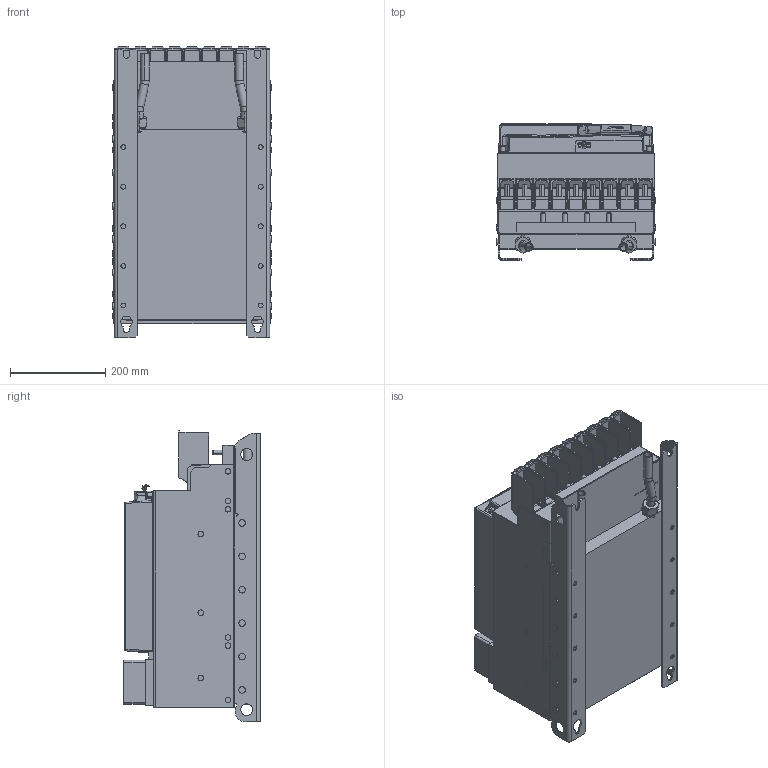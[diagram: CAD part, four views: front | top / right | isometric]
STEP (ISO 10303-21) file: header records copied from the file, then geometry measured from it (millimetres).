
FILE_DESCRIPTION (( 'STEP AP214' ), '1' );
FILE_NAME ('TW0 A1.STEP', '2023-11-20T07:51:45', ( '' ), ( '' ), 'SwSTEP 2.0', 'SolidWorks 2022', '' );
FILE_SCHEMA (( 'AUTOMOTIVE_DESIGN' ));
Length unit declared in the file: millimetre
Products named in the file (13): Kundenmodell ohne Zubehör^10077759_000; 10077759_000_ Leistungsteil F6-7 TW0 (Kundenmodell); 10061502_000_Deckel (Kundenmodell); 10044643_000_Kundenmodell; TW0 A1; 10045475_000_Gehäusebaugruppe F6-7 (Kundenmodell); 10059764_000_Blindabdeckung (Kundenmodell); Kundenmodell^10059764_000; Kundenmodell^10045475_000_Gehäusebaugruppe ohne Lüfterkarte; 10043622_000_70F6 Klemme (Kundenmodell); Kundenmodell^10061502_000; Kundenmodell^10044643_000; Kundenmodell^10043622_000
Assembly tree (12 placements, depth 4):
  TW0 A1
    10077759_000_ Leistungsteil F6-7 TW0 (Kundenmodell)
      10043622_000_70F6 Klemme (Kundenmodell)
        Kundenmodell^10043622_000
      Kundenmodell ohne Zubehör^10077759_000
    10045475_000_Gehäusebaugruppe F6-7 (Kundenmodell)
      10061502_000_Deckel (Kundenmodell)
        Kundenmodell^10061502_000
      Kundenmodell^10045475_000_Gehäusebaugruppe ohne Lüfterkarte
    10044643_000_Kundenmodell
      10059764_000_Blindabdeckung (Kundenmodell)
        Kundenmodell^10059764_000
      Kundenmodell^10044643_000
Bounding box: 335.4 x 285.9 x 610.76 mm (x, y, z)
Volume: 41229224.2 mm3; surface area: 2161508.7 mm2
Topology: 12 solids, 14 shells, 3264 faces, 8333 edges, 5116 vertices
Faces by surface type: plane 1624, cylinder 983, bspline 281, sphere 172, cone 121, torus 83
Entity records: 105162 total; most frequent: CARTESIAN_POINT 28362, ORIENTED_EDGE 16446, DIRECTION 15160, EDGE_CURVE 8223, VECTOR 5134, LINE 5134, VERTEX_POINT 5113, AXIS2_PLACEMENT_3D 5013
